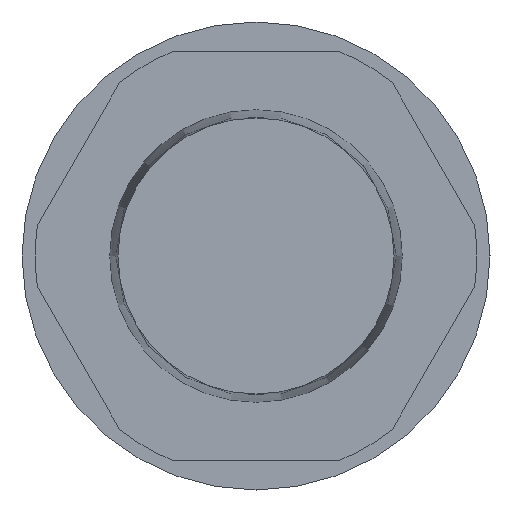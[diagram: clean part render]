
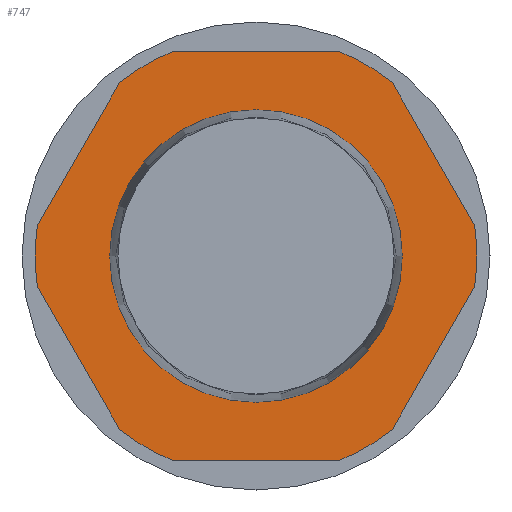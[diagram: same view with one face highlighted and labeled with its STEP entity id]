
A CAD part, left-side view. The second image highlights one B-rep face of the part: STEP entity #747.
In plain terms, the highlighted planar face has unit normal (-1, 0, 0).
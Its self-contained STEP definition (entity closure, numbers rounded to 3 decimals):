
#121=CARTESIAN_POINT('',(-11.75,5.0,0.));
#122=VERTEX_POINT('',#121);
#123=CARTESIAN_POINT('',(-11.75,0.0,0.0));
#124=DIRECTION('',(1.0,0.0,0.0));
#125=DIRECTION('',(0.0,-1.0,0.0));
#126=AXIS2_PLACEMENT_3D('',#123,#124,#125);
#127=CIRCLE('',#126,5.0);
#128=EDGE_CURVE('',#122,#122,#127,.T.);
#460=CARTESIAN_POINT('',(-11.75,7.477,1.05));
#461=VERTEX_POINT('',#460);
#469=CARTESIAN_POINT('',(-11.75,7.477,-1.05));
#470=VERTEX_POINT('',#469);
#477=CARTESIAN_POINT('',(-11.75,0.0,0.0));
#478=DIRECTION('',(1.0,0.0,0.0));
#479=DIRECTION('',(0.0,-1.0,0.0));
#480=AXIS2_PLACEMENT_3D('',#477,#478,#479);
#481=CIRCLE('',#480,7.55);
#482=EDGE_CURVE('',#470,#461,#481,.T.);
#492=CARTESIAN_POINT('',(-11.75,2.829,-7.));
#493=VERTEX_POINT('',#492);
#500=CARTESIAN_POINT('',(-11.75,4.648,-5.95));
#501=VERTEX_POINT('',#500);
#502=CARTESIAN_POINT('',(-11.75,0.0,0.0));
#503=DIRECTION('',(1.0,0.0,0.0));
#504=DIRECTION('',(0.0,-1.0,0.0));
#505=AXIS2_PLACEMENT_3D('',#502,#503,#504);
#506=CIRCLE('',#505,7.55);
#507=EDGE_CURVE('',#493,#501,#506,.T.);
#524=CARTESIAN_POINT('',(-11.75,2.829,7.));
#525=VERTEX_POINT('',#524);
#533=CARTESIAN_POINT('',(-11.75,4.648,5.95));
#534=VERTEX_POINT('',#533);
#541=CARTESIAN_POINT('',(-11.75,0.0,0.0));
#542=DIRECTION('',(1.0,0.0,0.0));
#543=DIRECTION('',(0.0,-1.0,0.0));
#544=AXIS2_PLACEMENT_3D('',#541,#542,#543);
#545=CIRCLE('',#544,7.55);
#546=EDGE_CURVE('',#534,#525,#545,.T.);
#556=CARTESIAN_POINT('',(-11.75,-4.648,-5.95));
#557=VERTEX_POINT('',#556);
#564=CARTESIAN_POINT('',(-11.75,-2.829,-7.));
#565=VERTEX_POINT('',#564);
#566=CARTESIAN_POINT('',(-11.75,0.0,0.0));
#567=DIRECTION('',(1.0,0.0,0.0));
#568=DIRECTION('',(0.0,-1.0,0.0));
#569=AXIS2_PLACEMENT_3D('',#566,#567,#568);
#570=CIRCLE('',#569,7.55);
#571=EDGE_CURVE('',#557,#565,#570,.T.);
#588=CARTESIAN_POINT('',(-11.75,-4.648,5.95));
#589=VERTEX_POINT('',#588);
#597=CARTESIAN_POINT('',(-11.75,-2.829,7.));
#598=VERTEX_POINT('',#597);
#605=CARTESIAN_POINT('',(-11.75,0.0,0.0));
#606=DIRECTION('',(1.0,0.0,0.0));
#607=DIRECTION('',(0.0,-1.0,0.0));
#608=AXIS2_PLACEMENT_3D('',#605,#606,#607);
#609=CIRCLE('',#608,7.55);
#610=EDGE_CURVE('',#598,#589,#609,.T.);
#620=CARTESIAN_POINT('',(-11.75,-7.477,1.05));
#621=VERTEX_POINT('',#620);
#628=CARTESIAN_POINT('',(-11.75,-7.477,-1.05));
#629=VERTEX_POINT('',#628);
#630=CARTESIAN_POINT('',(-11.75,0.0,0.0));
#631=DIRECTION('',(1.0,0.0,0.0));
#632=DIRECTION('',(0.0,-1.0,0.0));
#633=AXIS2_PLACEMENT_3D('',#630,#631,#632);
#634=CIRCLE('',#633,7.55);
#635=EDGE_CURVE('',#621,#629,#634,.T.);
#653=CARTESIAN_POINT('',(-11.75,-7.477,-1.05));
#654=DIRECTION('',(0.0,0.5,-0.866));
#655=VECTOR('',#654,5.658);
#656=LINE('',#653,#655);
#657=EDGE_CURVE('',#629,#557,#656,.T.);
#672=CARTESIAN_POINT('',(-11.75,2.829,7.));
#673=DIRECTION('',(0.0,-1.0,0.0));
#674=VECTOR('',#673,5.658);
#675=LINE('',#672,#674);
#676=EDGE_CURVE('',#525,#598,#675,.T.);
#687=CARTESIAN_POINT('',(-11.75,-2.829,-7.));
#688=DIRECTION('',(0.0,1.0,0.0));
#689=VECTOR('',#688,5.658);
#690=LINE('',#687,#689);
#691=EDGE_CURVE('',#565,#493,#690,.T.);
#706=CARTESIAN_POINT('',(-11.75,7.477,1.05));
#707=DIRECTION('',(0.0,-0.5,0.866));
#708=VECTOR('',#707,5.658);
#709=LINE('',#706,#708);
#710=EDGE_CURVE('',#461,#534,#709,.T.);
#715=CARTESIAN_POINT('',(-11.75,0.,0.));
#716=DIRECTION('',(1.0,0.0,0.0));
#717=DIRECTION('',(0.0,0.0,-1.0));
#718=AXIS2_PLACEMENT_3D('',#715,#716,#717);
#719=PLANE('',#718);
#720=ORIENTED_EDGE('',*,*,#610,.F.);
#721=ORIENTED_EDGE('',*,*,#676,.F.);
#722=ORIENTED_EDGE('',*,*,#546,.F.);
#723=ORIENTED_EDGE('',*,*,#710,.F.);
#724=ORIENTED_EDGE('',*,*,#482,.F.);
#725=CARTESIAN_POINT('',(-11.75,4.648,-5.95));
#726=DIRECTION('',(0.0,0.5,0.866));
#727=VECTOR('',#726,5.658);
#728=LINE('',#725,#727);
#729=EDGE_CURVE('',#501,#470,#728,.T.);
#730=ORIENTED_EDGE('',*,*,#729,.F.);
#731=ORIENTED_EDGE('',*,*,#507,.F.);
#732=ORIENTED_EDGE('',*,*,#691,.F.);
#733=ORIENTED_EDGE('',*,*,#571,.F.);
#734=ORIENTED_EDGE('',*,*,#657,.F.);
#735=ORIENTED_EDGE('',*,*,#635,.F.);
#736=CARTESIAN_POINT('',(-11.75,-4.648,5.95));
#737=DIRECTION('',(0.0,-0.5,-0.866));
#738=VECTOR('',#737,5.658);
#739=LINE('',#736,#738);
#740=EDGE_CURVE('',#589,#621,#739,.T.);
#741=ORIENTED_EDGE('',*,*,#740,.F.);
#742=EDGE_LOOP('',(#720,#721,#722,#723,#724,#730,#731,#732,#733,#734,#735,#741));
#743=FACE_OUTER_BOUND('',#742,.T.);
#744=ORIENTED_EDGE('',*,*,#128,.T.);
#745=EDGE_LOOP('',(#744));
#746=FACE_BOUND('',#745,.T.);
#747=ADVANCED_FACE('',(#743,#746),#719,.F.);
